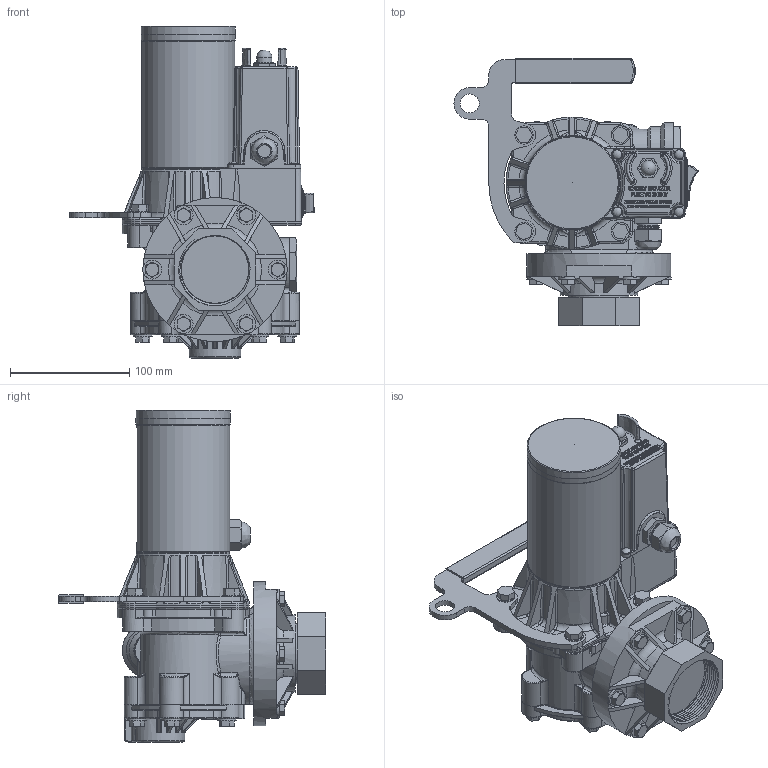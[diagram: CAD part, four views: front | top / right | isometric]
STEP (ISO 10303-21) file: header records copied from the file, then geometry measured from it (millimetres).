
FILE_DESCRIPTION(/* description */ (''),/* implementation_level */ '2;1');
FILE_NAME(/* name */ 'C:\Vault Projects\GPI Eng\New Projects\DHarris\Website model updates\STEP\PA-200-2UR.stp',/* time_stamp */ '2022-07-20T15:07:18-05:00',/* author */ ('gdanhar'),/* organization */ (''),/* preprocessor_version */ 'ST-DEVELOPER v18.1',/* originating_system */ 'Autodesk Inventor 2022',/* authorisation */ '');
FILE_SCHEMA (('AUTOMOTIVE_DESIGN { 1 0 10303 214 3 1 1 }'));
Length unit declared in the file: inch
Products named in the file (1): PA-200-2UR
Bounding box: 204.56 x 224.08 x 278.17 mm (x, y, z)
Volume: 2557201.3 mm3; surface area: 247960 mm2
Topology: 1 solids, 2 shells, 3258 faces, 8571 edges, 5459 vertices
Faces by surface type: plane 1769, bspline 665, cylinder 450, torus 278, cone 72, sphere 24
Full cylindrical faces by diameter (mm): 2.337 x1, 2.438 x1, 3.048 x1, 10.744 x1, 12.903 x1, 15.329 x2, 15.494 x2, 15.697 x1, 15.875 x6, 16.002 x7, 16.967 x2, 25.4 x1, 50.317 x1, 56.363 x1, 56.967 x8, 65.075 x1, 77.953 x1, 88.697 x2, 88.849 x1, 120.65 x1
Entity records: 123096 total; most frequent: CARTESIAN_POINT 44079, ORIENTED_EDGE 17072, DIRECTION 13504, EDGE_CURVE 8536, VERTEX_POINT 5459, LINE 5134, VECTOR 5134, AXIS2_PLACEMENT_3D 4185
